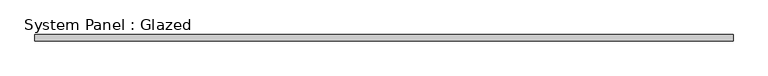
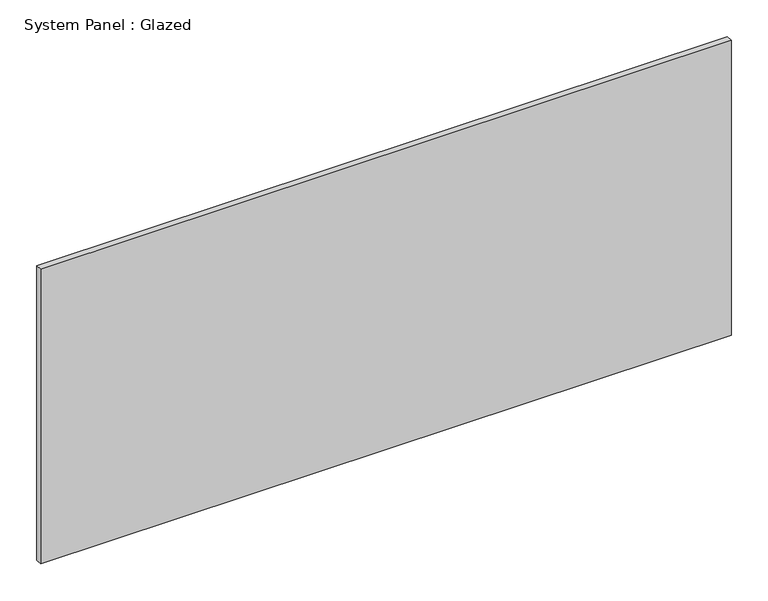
"""IFC4 building model written with IfcOpenShell, lengths in millimetres: plate geometry, System Panel : Glazed."""

from ifc_helpers import new_model, si_unit, origin, origin_with_axes, place, context, project, spatial, polyline, outline, extrude, source, transform, mapped, element, save


def system_panel_glazed_86de827a(model_context):
    return source(origin(), model_context, "Body", "SweptSolid", [
        extrude(outline(polyline([(541.3436275, -5.0), (-541.3436275, -5.0), (-541.3436275, 5.0), (541.3436275, 5.0), (541.3436275, -5.0)])), origin_with_axes(), (0.0, 0.0, 1.0), 488.3333333),
    ])


if __name__ == "__main__":
    model = new_model("IFC4")
    model_context = context("Model", 3, world=origin())
    ifc_project = project(units=[si_unit("LENGTHUNIT", "METRE", prefix="MILLI")], contexts=[model_context])
    site = spatial("IfcSite", under=ifc_project)
    building = spatial("IfcBuilding", under=site)
    placement = place(None, origin())
    system_panel_glazed_shape = system_panel_glazed_86de827a(model_context)
    element("IfcPlate", 1, ObjectType="System Panel : Glazed", at=placement, inside=building, context=model_context, shape_type="MappedRepresentation", body=[
        mapped(system_panel_glazed_shape, transform((0.0, 0.0, 0.0), x_axis=(1.0, 0.0, 0.0), y_axis=(0.0, 1.0, 0.0), z_axis=(0.0, 0.0, 1.0))),
    ])
    save(model, "model.ifc")
